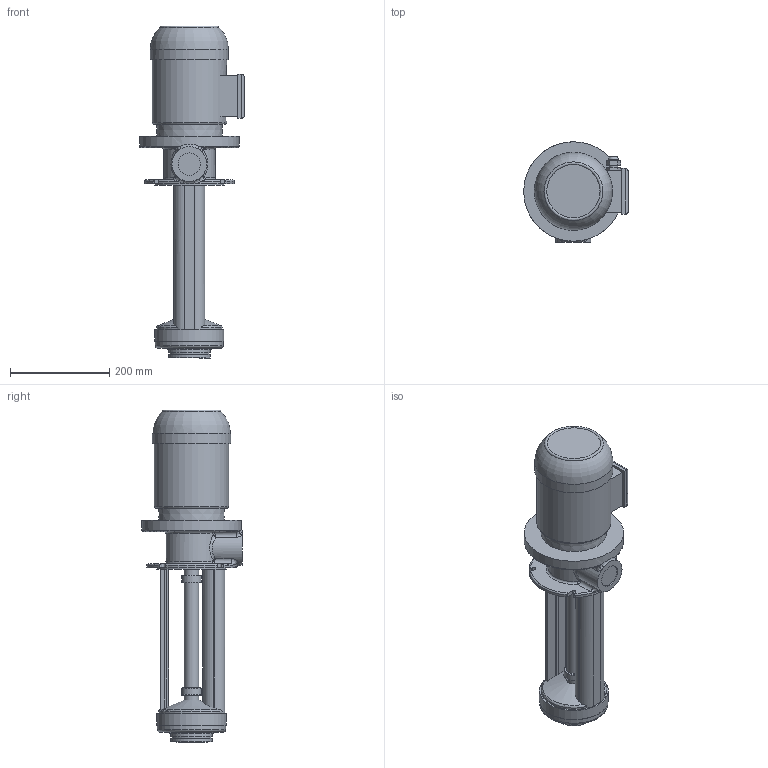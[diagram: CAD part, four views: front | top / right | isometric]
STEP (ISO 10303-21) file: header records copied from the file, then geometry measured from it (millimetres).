
FILE_DESCRIPTION(/* description */ ('Unknown'),/* implementation_level */ '2;1');
FILE_NAME(/* name */ 'GPF 350',/* time_stamp */ '2025-06-17T14:08:30+03:00',/* author */ ('Unknown'),/* organization */ ('Unknown'),/* preprocessor_version */ 'ST-DEVELOPER v16.7',/* originating_system */ 'DEX',/* authorisation */ $);
FILE_SCHEMA (('AUTOMOTIVE_DESIGN {1 0 10303 214 3 1 1}'));
Length unit declared in the file: millimetre
Products named in the file (1): GPF 350
Bounding box: 210.5 x 202 x 667.57 mm (x, y, z)
Volume: 7529617.6 mm3; surface area: 433100.9 mm2
Topology: 1 solids, 1 shells, 276 faces, 668 edges, 429 vertices
Faces by surface type: plane 98, bspline 86, cylinder 65, torus 14, cone 13
Full cylindrical faces by diameter (mm): 17 x1, 21.5 x1, 23.451 x1, 29 x3, 33 x2, 35 x2, 39 x2, 40.5 x2, 45 x1, 65.927 x1, 70 x1, 79 x1, 84 x2, 137 x1, 139 x1, 140 x1, 149.426 x1, 200 x1
Entity records: 10644 total; most frequent: CARTESIAN_POINT 4922, ORIENTED_EDGE 1226, DIRECTION 955, EDGE_CURVE 613, VERTEX_POINT 422, EDGE_LOOP 363, FACE_BOUND 363, AXIS2_PLACEMENT_3D 354
